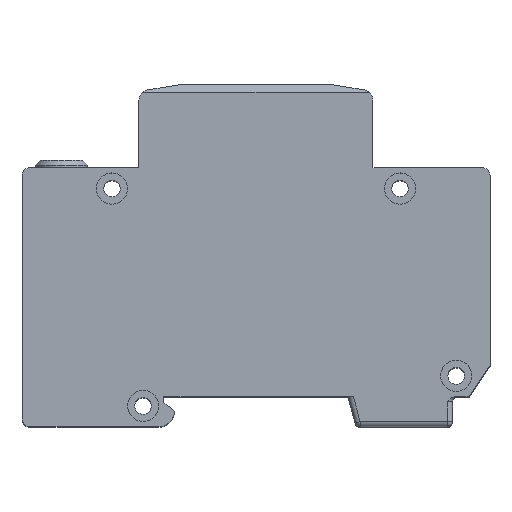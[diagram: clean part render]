
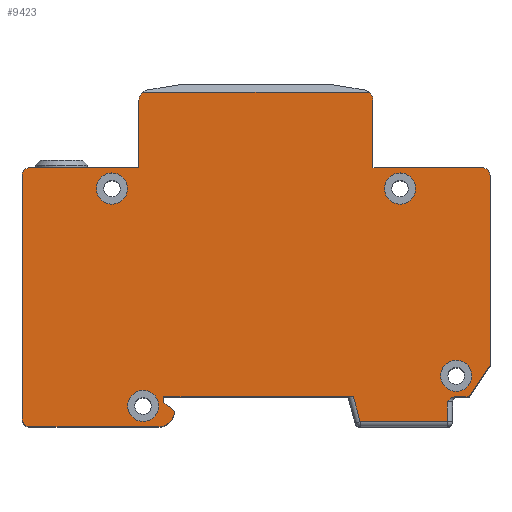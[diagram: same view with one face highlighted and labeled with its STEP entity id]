
A CAD part, top view. The second image highlights one B-rep face of the part: STEP entity #9423.
In plain terms, the highlighted planar face has unit normal (0, 0, 1).
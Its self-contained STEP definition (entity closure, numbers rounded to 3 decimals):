
#87=B_SPLINE_CURVE_WITH_KNOTS('',3,(#15340,#15341,#15342,#15343,#15344,
#15345),.UNSPECIFIED.,.F.,.F.,(4,2,4),(0.506,0.582,
0.7),.UNSPECIFIED.);
#136=FACE_BOUND('',#1422,.T.);
#137=FACE_BOUND('',#1423,.T.);
#138=FACE_BOUND('',#1424,.T.);
#139=FACE_BOUND('',#1425,.T.);
#393=CIRCLE('',#10062,1.5);
#395=CIRCLE('',#10093,1.5);
#397=CIRCLE('',#10099,3.);
#407=CIRCLE('',#10157,1.5);
#426=CIRCLE('',#10193,2.);
#427=CIRCLE('',#10194,2.);
#428=CIRCLE('',#10195,3.);
#429=CIRCLE('',#10196,3.);
#430=CIRCLE('',#10197,3.);
#431=CIRCLE('',#10198,3.);
#896=FACE_OUTER_BOUND('',#1421,.T.);
#1421=EDGE_LOOP('',(#8127,#8128,#8129,#8130,#8131,#8132,#8133,#8134,#8135,
#8136,#8137,#8138,#8139,#8140,#8141,#8142,#8143,#8144,#8145,#8146,#8147,
#8148,#8149));
#1422=EDGE_LOOP('',(#8150));
#1423=EDGE_LOOP('',(#8151));
#1424=EDGE_LOOP('',(#8152));
#1425=EDGE_LOOP('',(#8153));
#2080=LINE('',#14329,#3163);
#2396=LINE('',#15018,#3479);
#2414=LINE('',#15055,#3497);
#2420=LINE('',#15071,#3503);
#2424=LINE('',#15079,#3507);
#2428=LINE('',#15091,#3511);
#2450=LINE('',#15150,#3533);
#2454=LINE('',#15159,#3537);
#2506=LINE('',#15259,#3589);
#2512=LINE('',#15277,#3595);
#2517=LINE('',#15326,#3600);
#2518=LINE('',#15330,#3601);
#2519=LINE('',#15333,#3602);
#2520=LINE('',#15335,#3603);
#2521=LINE('',#15337,#3604);
#2522=LINE('',#15339,#3605);
#3163=VECTOR('',#11628,10.);
#3479=VECTOR('',#12180,10.);
#3497=VECTOR('',#12220,10.);
#3503=VECTOR('',#12238,10.);
#3507=VECTOR('',#12246,10.);
#3511=VECTOR('',#12258,10.);
#3533=VECTOR('',#12322,10.);
#3537=VECTOR('',#12332,10.);
#3589=VECTOR('',#12428,10.);
#3595=VECTOR('',#12450,10.);
#3600=VECTOR('',#12517,10.);
#3601=VECTOR('',#12520,10.);
#3602=VECTOR('',#12523,10.);
#3603=VECTOR('',#12524,10.);
#3604=VECTOR('',#12525,10.);
#3605=VECTOR('',#12526,10.);
#4128=VERTEX_POINT('',#14326);
#4129=VERTEX_POINT('',#14328);
#4354=VERTEX_POINT('',#14908);
#4384=VERTEX_POINT('',#15016);
#4390=VERTEX_POINT('',#15045);
#4392=VERTEX_POINT('',#15053);
#4394=VERTEX_POINT('',#15061);
#4396=VERTEX_POINT('',#15069);
#4398=VERTEX_POINT('',#15077);
#4402=VERTEX_POINT('',#15089);
#4417=VERTEX_POINT('',#15147);
#4418=VERTEX_POINT('',#15149);
#4420=VERTEX_POINT('',#15157);
#4446=VERTEX_POINT('',#15257);
#4448=VERTEX_POINT('',#15265);
#4450=VERTEX_POINT('',#15275);
#4463=VERTEX_POINT('',#15325);
#4464=VERTEX_POINT('',#15327);
#4465=VERTEX_POINT('',#15329);
#4466=VERTEX_POINT('',#15331);
#4467=VERTEX_POINT('',#15334);
#4468=VERTEX_POINT('',#15336);
#4469=VERTEX_POINT('',#15338);
#4470=VERTEX_POINT('',#15346);
#4471=VERTEX_POINT('',#15348);
#4472=VERTEX_POINT('',#15350);
#4473=VERTEX_POINT('',#15352);
#5235=EDGE_CURVE('',#4129,#4128,#2080,.T.);
#5525=EDGE_CURVE('',#4354,#4128,#393,.T.);
#5581=EDGE_CURVE('',#4354,#4384,#2396,.T.);
#5597=EDGE_CURVE('',#4390,#4384,#395,.T.);
#5601=EDGE_CURVE('',#4390,#4392,#2414,.T.);
#5605=EDGE_CURVE('',#4392,#4394,#397,.T.);
#5609=EDGE_CURVE('',#4394,#4396,#2420,.T.);
#5613=EDGE_CURVE('',#4396,#4398,#2424,.T.);
#5619=EDGE_CURVE('',#4398,#4402,#2428,.T.);
#5648=EDGE_CURVE('',#4417,#4418,#2450,.T.);
#5653=EDGE_CURVE('',#4417,#4420,#2454,.T.);
#5705=EDGE_CURVE('',#4420,#4446,#2506,.T.);
#5709=EDGE_CURVE('',#4448,#4446,#407,.T.);
#5715=EDGE_CURVE('',#4448,#4450,#2512,.T.);
#5736=EDGE_CURVE('',#4450,#4463,#2517,.T.);
#5737=EDGE_CURVE('',#4464,#4463,#426,.T.);
#5738=EDGE_CURVE('',#4465,#4464,#2518,.T.);
#5739=EDGE_CURVE('',#4466,#4465,#427,.T.);
#5740=EDGE_CURVE('',#4466,#4129,#2519,.T.);
#5741=EDGE_CURVE('',#4467,#4402,#2520,.T.);
#5742=EDGE_CURVE('',#4468,#4467,#2521,.T.);
#5743=EDGE_CURVE('',#4469,#4468,#2522,.T.);
#5744=EDGE_CURVE('',#4418,#4469,#87,.T.);
#5745=EDGE_CURVE('',#4470,#4470,#428,.T.);
#5746=EDGE_CURVE('',#4471,#4471,#429,.T.);
#5747=EDGE_CURVE('',#4472,#4472,#430,.T.);
#5748=EDGE_CURVE('',#4473,#4473,#431,.T.);
#8127=ORIENTED_EDGE('',*,*,#5709,.F.);
#8128=ORIENTED_EDGE('',*,*,#5715,.T.);
#8129=ORIENTED_EDGE('',*,*,#5736,.T.);
#8130=ORIENTED_EDGE('',*,*,#5737,.F.);
#8131=ORIENTED_EDGE('',*,*,#5738,.F.);
#8132=ORIENTED_EDGE('',*,*,#5739,.F.);
#8133=ORIENTED_EDGE('',*,*,#5740,.T.);
#8134=ORIENTED_EDGE('',*,*,#5235,.T.);
#8135=ORIENTED_EDGE('',*,*,#5525,.F.);
#8136=ORIENTED_EDGE('',*,*,#5581,.T.);
#8137=ORIENTED_EDGE('',*,*,#5597,.F.);
#8138=ORIENTED_EDGE('',*,*,#5601,.T.);
#8139=ORIENTED_EDGE('',*,*,#5605,.T.);
#8140=ORIENTED_EDGE('',*,*,#5609,.T.);
#8141=ORIENTED_EDGE('',*,*,#5613,.T.);
#8142=ORIENTED_EDGE('',*,*,#5619,.T.);
#8143=ORIENTED_EDGE('',*,*,#5741,.F.);
#8144=ORIENTED_EDGE('',*,*,#5742,.F.);
#8145=ORIENTED_EDGE('',*,*,#5743,.F.);
#8146=ORIENTED_EDGE('',*,*,#5744,.F.);
#8147=ORIENTED_EDGE('',*,*,#5648,.F.);
#8148=ORIENTED_EDGE('',*,*,#5653,.T.);
#8149=ORIENTED_EDGE('',*,*,#5705,.T.);
#8150=ORIENTED_EDGE('',*,*,#5745,.T.);
#8151=ORIENTED_EDGE('',*,*,#5746,.T.);
#8152=ORIENTED_EDGE('',*,*,#5747,.T.);
#8153=ORIENTED_EDGE('',*,*,#5748,.T.);
#8962=PLANE('',#10192);
#9423=ADVANCED_FACE('',(#896,#136,#137,#138,#139),#8962,.T.);
#10062=AXIS2_PLACEMENT_3D('',#14910,#12079,#12080);
#10093=AXIS2_PLACEMENT_3D('',#15047,#12211,#12212);
#10099=AXIS2_PLACEMENT_3D('',#15063,#12229,#12230);
#10157=AXIS2_PLACEMENT_3D('',#15267,#12437,#12438);
#10192=AXIS2_PLACEMENT_3D('',#15324,#12515,#12516);
#10193=AXIS2_PLACEMENT_3D('',#15328,#12518,#12519);
#10194=AXIS2_PLACEMENT_3D('',#15332,#12521,#12522);
#10195=AXIS2_PLACEMENT_3D('',#15347,#12527,#12528);
#10196=AXIS2_PLACEMENT_3D('',#15349,#12529,#12530);
#10197=AXIS2_PLACEMENT_3D('',#15351,#12531,#12532);
#10198=AXIS2_PLACEMENT_3D('',#15353,#12533,#12534);
#11628=DIRECTION('',(-1.,0.,0.));
#12079=DIRECTION('center_axis',(0.,0.,-1.));
#12080=DIRECTION('ref_axis',(-0.707,0.707,0.));
#12180=DIRECTION('',(0.,-1.,0.));
#12211=DIRECTION('center_axis',(0.,0.,-1.));
#12212=DIRECTION('ref_axis',(-0.707,-0.707,0.));
#12220=DIRECTION('',(1.,0.,0.));
#12229=DIRECTION('center_axis',(0.,0.,1.));
#12230=DIRECTION('ref_axis',(0.,-1.,0.));
#12238=DIRECTION('',(-0.781,0.625,0.));
#12246=DIRECTION('',(0.,1.,0.));
#12258=DIRECTION('',(1.,0.,0.));
#12322=DIRECTION('',(-1.,0.,0.));
#12332=DIRECTION('',(0.555,0.832,0.));
#12428=DIRECTION('',(0.,1.,0.));
#12437=DIRECTION('center_axis',(0.,0.,-1.));
#12438=DIRECTION('ref_axis',(0.707,0.707,0.));
#12450=DIRECTION('',(-1.,0.,0.));
#12515=DIRECTION('center_axis',(0.,0.,1.));
#12516=DIRECTION('ref_axis',(1.,0.,0.));
#12517=DIRECTION('',(0.,1.,0.));
#12518=DIRECTION('center_axis',(0.,0.,-1.));
#12519=DIRECTION('ref_axis',(0.762,0.648,0.));
#12520=DIRECTION('',(1.,0.,0.));
#12521=DIRECTION('center_axis',(0.,0.,-1.));
#12522=DIRECTION('ref_axis',(-0.762,0.648,0.));
#12523=DIRECTION('',(0.,-1.,0.));
#12524=DIRECTION('',(-0.259,0.966,0.));
#12525=DIRECTION('',(-1.,0.,0.));
#12526=DIRECTION('',(0.,-1.,0.));
#12527=DIRECTION('center_axis',(0.,0.,-1.));
#12528=DIRECTION('ref_axis',(1.,0.,0.));
#12529=DIRECTION('center_axis',(0.,0.,-1.));
#12530=DIRECTION('ref_axis',(1.,0.,0.));
#12531=DIRECTION('center_axis',(0.,0.,-1.));
#12532=DIRECTION('ref_axis',(1.,0.,0.));
#12533=DIRECTION('center_axis',(0.,0.,-1.));
#12534=DIRECTION('ref_axis',(1.,0.,0.));
#14326=CARTESIAN_POINT('',(-43.5,14.,17.5));
#14328=CARTESIAN_POINT('',(-22.5,14.,17.5));
#14329=CARTESIAN_POINT('',(-22.5,14.,17.5));
#14908=CARTESIAN_POINT('',(-45.,12.5,17.5));
#14910=CARTESIAN_POINT('Origin',(-43.5,12.5,17.5));
#15016=CARTESIAN_POINT('',(-45.,-34.3,17.5));
#15018=CARTESIAN_POINT('',(-45.,14.,17.5));
#15045=CARTESIAN_POINT('',(-43.5,-35.8,17.5));
#15047=CARTESIAN_POINT('Origin',(-43.5,-34.3,17.5));
#15053=CARTESIAN_POINT('',(-18.7,-35.8,17.5));
#15055=CARTESIAN_POINT('',(-45.,-35.8,17.5));
#15061=CARTESIAN_POINT('',(-15.7,-32.8,17.5));
#15063=CARTESIAN_POINT('Origin',(-18.7,-32.8,17.5));
#15069=CARTESIAN_POINT('',(-17.7,-31.2,17.5));
#15071=CARTESIAN_POINT('',(-15.7,-32.8,17.5));
#15077=CARTESIAN_POINT('',(-17.7,-30.,17.5));
#15079=CARTESIAN_POINT('',(-17.7,-31.2,17.5));
#15089=CARTESIAN_POINT('',(18.735,-30.,17.5));
#15091=CARTESIAN_POINT('',(-17.7,-30.,17.5));
#15147=CARTESIAN_POINT('',(41.,-30.,17.5));
#15149=CARTESIAN_POINT('',(38.532,-30.,17.5));
#15150=CARTESIAN_POINT('',(18.592,-30.,17.5));
#15157=CARTESIAN_POINT('',(45.,-24.,17.5));
#15159=CARTESIAN_POINT('',(41.,-30.,17.5));
#15257=CARTESIAN_POINT('',(45.,12.5,17.5));
#15259=CARTESIAN_POINT('',(45.,-24.,17.5));
#15265=CARTESIAN_POINT('',(43.5,14.,17.5));
#15267=CARTESIAN_POINT('Origin',(43.5,12.5,17.5));
#15275=CARTESIAN_POINT('',(22.5,14.,17.5));
#15277=CARTESIAN_POINT('',(45.,14.,17.5));
#15324=CARTESIAN_POINT('Origin',(-0.615,-5.122,17.5));
#15325=CARTESIAN_POINT('',(22.5,26.999,17.5));
#15326=CARTESIAN_POINT('',(22.5,14.,17.5));
#15327=CARTESIAN_POINT('',(21.821,28.5,17.5));
#15328=CARTESIAN_POINT('Origin',(20.5,26.999,17.5));
#15329=CARTESIAN_POINT('',(-21.821,28.5,17.5));
#15330=CARTESIAN_POINT('',(10.942,28.5,17.5));
#15331=CARTESIAN_POINT('',(-22.5,26.999,17.5));
#15332=CARTESIAN_POINT('Origin',(-20.5,26.999,17.5));
#15333=CARTESIAN_POINT('',(-22.5,30.,17.5));
#15334=CARTESIAN_POINT('',(20.021,-34.8,17.5));
#15335=CARTESIAN_POINT('',(14.943,-15.846,17.5));
#15336=CARTESIAN_POINT('',(36.8,-34.8,17.5));
#15337=CARTESIAN_POINT('',(9.319,-34.8,17.5));
#15338=CARTESIAN_POINT('',(36.8,-31.,17.5));
#15339=CARTESIAN_POINT('',(36.8,-20.461,17.5));
#15340=CARTESIAN_POINT('Ctrl Pts',(38.532,-30.,17.5));
#15341=CARTESIAN_POINT('Ctrl Pts',(38.277,-30.,17.5));
#15342=CARTESIAN_POINT('Ctrl Pts',(37.985,-30.09,17.5));
#15343=CARTESIAN_POINT('Ctrl Pts',(37.415,-30.396,17.5));
#15344=CARTESIAN_POINT('Ctrl Pts',(37.077,-30.723,17.5));
#15345=CARTESIAN_POINT('Ctrl Pts',(36.8,-31.,17.5));
#15346=CARTESIAN_POINT('',(35.5,-26.,17.5));
#15347=CARTESIAN_POINT('Origin',(38.5,-26.,17.5));
#15348=CARTESIAN_POINT('',(24.7,10.,17.5));
#15349=CARTESIAN_POINT('Origin',(27.7,10.,17.5));
#15350=CARTESIAN_POINT('',(-30.7,10.,17.5));
#15351=CARTESIAN_POINT('Origin',(-27.7,10.,17.5));
#15352=CARTESIAN_POINT('',(-24.7,-31.8,17.5));
#15353=CARTESIAN_POINT('Origin',(-21.7,-31.8,17.5));
